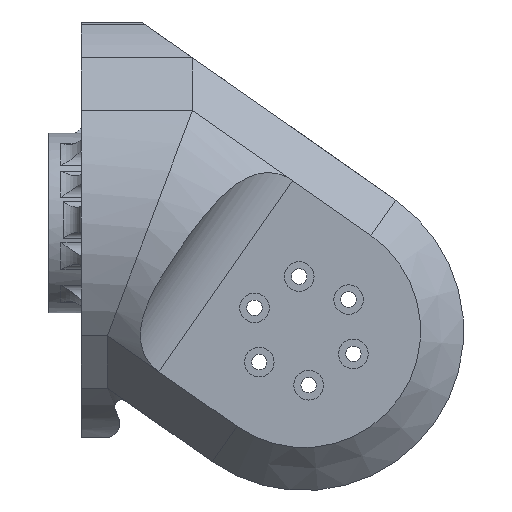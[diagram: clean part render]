
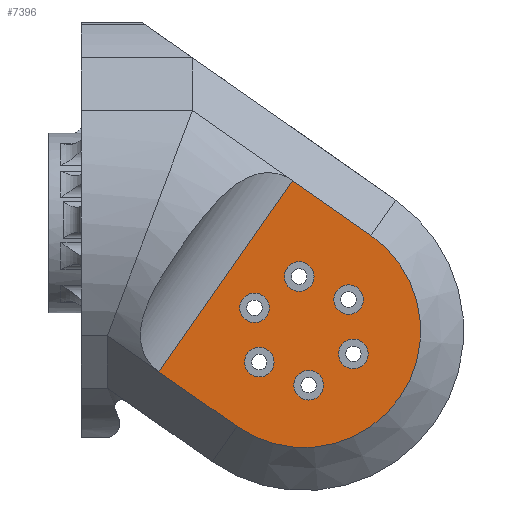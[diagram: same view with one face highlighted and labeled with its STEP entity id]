
A CAD part, front view. The second image highlights one B-rep face of the part: STEP entity #7396.
In plain terms, the highlighted planar face has unit normal (0, -1, 0).
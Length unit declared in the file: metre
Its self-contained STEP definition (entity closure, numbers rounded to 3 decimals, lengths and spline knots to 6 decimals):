
#307=CIRCLE('',#7919,0.004125);
#308=CIRCLE('',#7921,0.004125);
#309=CIRCLE('',#7923,0.004125);
#310=CIRCLE('',#7925,0.004125);
#311=CIRCLE('',#7927,0.004125);
#312=CIRCLE('',#7929,0.004125);
#397=CIRCLE('',#8095,0.032475);
#1678=ORIENTED_EDGE('',*,*,#3621,.T.);
#1679=ORIENTED_EDGE('',*,*,#3697,.T.);
#1680=ORIENTED_EDGE('',*,*,#3827,.T.);
#1681=ORIENTED_EDGE('',*,*,#3829,.T.);
#1682=ORIENTED_EDGE('',*,*,#3619,.T.);
#1683=ORIENTED_EDGE('',*,*,#3618,.T.);
#1684=ORIENTED_EDGE('',*,*,#3617,.T.);
#1685=ORIENTED_EDGE('',*,*,#3616,.T.);
#1686=ORIENTED_EDGE('',*,*,#3615,.T.);
#1687=ORIENTED_EDGE('',*,*,#3614,.T.);
#3614=EDGE_CURVE('',#4739,#4739,#307,.T.);
#3615=EDGE_CURVE('',#4740,#4740,#308,.T.);
#3616=EDGE_CURVE('',#4741,#4741,#309,.T.);
#3617=EDGE_CURVE('',#4742,#4742,#310,.T.);
#3618=EDGE_CURVE('',#4743,#4743,#311,.T.);
#3619=EDGE_CURVE('',#4744,#4744,#312,.T.);
#3621=EDGE_CURVE('',#4746,#4745,#5373,.T.);
#3697=EDGE_CURVE('',#4745,#4818,#5380,.T.);
#3827=EDGE_CURVE('',#4818,#4914,#397,.T.);
#3829=EDGE_CURVE('',#4914,#4746,#5454,.T.);
#4739=VERTEX_POINT('',#11172);
#4740=VERTEX_POINT('',#11175);
#4741=VERTEX_POINT('',#11178);
#4742=VERTEX_POINT('',#11181);
#4743=VERTEX_POINT('',#11184);
#4744=VERTEX_POINT('',#11187);
#4745=VERTEX_POINT('',#11213);
#4746=VERTEX_POINT('',#11214);
#4818=VERTEX_POINT('',#11423);
#4914=VERTEX_POINT('',#11720);
#5373=LINE('',#11215,#5694);
#5380=LINE('',#11425,#5701);
#5454=LINE('',#11725,#5775);
#5694=VECTOR('',#9030,1.);
#5701=VECTOR('',#9199,1.);
#5775=VECTOR('',#9445,1.);
#6159=EDGE_LOOP('',(#1678,#1679,#1680,#1681));
#6160=EDGE_LOOP('',(#1682));
#6161=EDGE_LOOP('',(#1683));
#6162=EDGE_LOOP('',(#1684));
#6163=EDGE_LOOP('',(#1685));
#6164=EDGE_LOOP('',(#1686));
#6165=EDGE_LOOP('',(#1687));
#6766=FACE_BOUND('',#6159,.T.);
#6767=FACE_BOUND('',#6160,.T.);
#6768=FACE_BOUND('',#6161,.T.);
#6769=FACE_BOUND('',#6162,.T.);
#6770=FACE_BOUND('',#6163,.T.);
#6771=FACE_BOUND('',#6164,.T.);
#6772=FACE_BOUND('',#6165,.T.);
#7234=PLANE('',#8097);
#7396=ADVANCED_FACE('',(#6766,#6767,#6768,#6769,#6770,#6771,#6772),#7234,
 .T.);
#7919=AXIS2_PLACEMENT_3D('',#11171,#9006,#9007);
#7921=AXIS2_PLACEMENT_3D('',#11174,#9010,#9011);
#7923=AXIS2_PLACEMENT_3D('',#11177,#9014,#9015);
#7925=AXIS2_PLACEMENT_3D('',#11180,#9018,#9019);
#7927=AXIS2_PLACEMENT_3D('',#11183,#9022,#9023);
#7929=AXIS2_PLACEMENT_3D('',#11186,#9026,#9027);
#8095=AXIS2_PLACEMENT_3D('',#11722,#9439,#9440);
#8097=AXIS2_PLACEMENT_3D('',#11724,#9443,#9444);
#9006=DIRECTION('',(0.,1.,0.));
#9007=DIRECTION('',(0.,0.,1.));
#9010=DIRECTION('',(0.,1.,0.));
#9011=DIRECTION('',(0.,0.,1.));
#9014=DIRECTION('',(0.,1.,0.));
#9015=DIRECTION('',(0.,0.,1.));
#9018=DIRECTION('',(0.,1.,0.));
#9019=DIRECTION('',(0.,0.,1.));
#9022=DIRECTION('',(0.,1.,0.));
#9023=DIRECTION('',(0.,0.,1.));
#9026=DIRECTION('',(0.,1.,0.));
#9027=DIRECTION('',(0.,0.,1.));
#9030=DIRECTION('',(-0.574,0.,-0.819));
#9199=DIRECTION('',(0.819,0.,-0.574));
#9439=DIRECTION('',(0.,-1.,0.));
#9440=DIRECTION('',(0.,0.,-1.));
#9443=DIRECTION('',(0.,-1.,0.));
#9444=DIRECTION('',(1.,0.,0.));
#9445=DIRECTION('',(-0.819,0.,0.574));
#11171=CARTESIAN_POINT('',(0.124677,-0.0515,-0.078878));
#11172=CARTESIAN_POINT('',(0.124677,-0.0515,-0.074753));
#11174=CARTESIAN_POINT('',(0.113565,-0.0515,-0.102707));
#11175=CARTESIAN_POINT('',(0.113565,-0.0515,-0.098582));
#11177=CARTESIAN_POINT('',(0.127323,-0.0515,-0.109122));
#11178=CARTESIAN_POINT('',(0.127323,-0.0515,-0.104997));
#11180=CARTESIAN_POINT('',(0.139758,-0.0515,-0.100415));
#11181=CARTESIAN_POINT('',(0.139758,-0.0515,-0.09629));
#11183=CARTESIAN_POINT('',(0.138435,-0.0515,-0.085293));
#11184=CARTESIAN_POINT('',(0.138435,-0.0515,-0.081168));
#11186=CARTESIAN_POINT('',(0.112242,-0.0515,-0.087585));
#11187=CARTESIAN_POINT('',(0.112242,-0.0515,-0.08346));
#11213=CARTESIAN_POINT('',(0.085622,-0.0515,-0.105372));
#11214=CARTESIAN_POINT('',(0.122876,-0.0515,-0.052168));
#11215=CARTESIAN_POINT('',(0.084,-0.0515,-0.107688));
#11423=CARTESIAN_POINT('',(0.107373,-0.0515,-0.120602));
#11425=CARTESIAN_POINT('',(0.049359,-0.0515,-0.07998));
#11720=CARTESIAN_POINT('',(0.144627,-0.0515,-0.067398));
#11722=CARTESIAN_POINT('',(0.126,-0.0515,-0.094));
#11724=CARTESIAN_POINT('',(0.047738,-0.0515,-0.082296));
#11725=CARTESIAN_POINT('',(0.057117,-0.0515,-0.006123));
